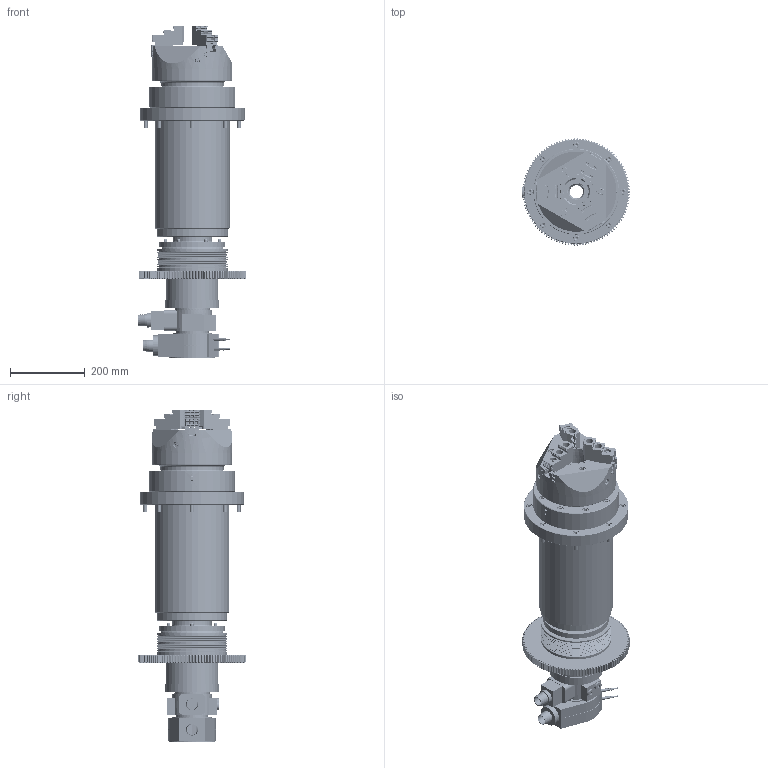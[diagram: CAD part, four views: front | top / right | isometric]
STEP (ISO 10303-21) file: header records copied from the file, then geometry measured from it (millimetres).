
FILE_DESCRIPTION(/* description */ (''),/* implementation_level */ '2;1');
FILE_NAME(/* name */ 'D:\Luboš_škola\Diplomka\FINAL\2020-01-S001.stp',/* time_stamp */ '2020-06-25T21:47:54+02:00',/* author */ ('Lubos'),/* organization */ (''),/* preprocessor_version */ 'ST-DEVELOPER v16.13',/* originating_system */ 'Autodesk Inventor 2018',/* authorisation */ '');
FILE_SCHEMA (('AUTOMOTIVE_DESIGN { 1 0 10303 214 3 1 1 }'));
Products named in the file (48): 2020-01-S001; 2020-01-S010; DP-2020-01-0001; 2020-01-0002; 7020 ACD; NN 3018 KTN9_SP; 2020-01-0003; 2020-01-0004; 2020-01-0005; 2020-01-0006; 2020-01-0007; 2020-01-0008; 2020-01-0009; 2020-01-0010; CSN 02 2562 - 22x14x70; 2020-01-S002; 2020-01-0011; KMD 14; TTR ERM 2200_733349-16; DIN 912 - M10 x 35; DIN 912 - M10 x 60; 2020-01-0016; DIN 912 - M5 x 25; ISO 7092 - ST 5 - 140 HV; DIN 912 - M10 x 45; 2020-01-S011; Čelní ozubená kola; Čelní ozubené kolo2; DIN 912 - M10 x 25; 2020-01-S002_1; ISO 4762 - M8 x 80; 2020-01-0014; 2020-01-0015; OPUS-H3 70-37_S001.ipt; OPUS-H3 70-37_0001; OPUS-H3 70-37_0002; OPUS-H3 70-37_0003; SCHUNK-1359604 OPUS-H3 70-37; OPUS-H3 70-37_0005; OPUS-H3 70-37_0006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
Assembly tree (97 placements, depth 4):
  2020-01-S001
    2020-01-S010
      DP-2020-01-0001
      2020-01-0002
      7020 ACD  x3
      NN 3018 KTN9_SP
      2020-01-0003
      2020-01-0004
      2020-01-0005
      2020-01-0006
      2020-01-0007
      2020-01-0008
      2020-01-0009
      2020-01-0010
      CSN 02 2562 - 22x14x70  x2
      2020-01-S002
        2020-01-0011
        KMD 14
        TTR ERM 2200_733349-16
      DIN 912 - M10 x 35  x8
      DIN 912 - M10 x 60  x9
      2020-01-0016
      DIN 912 - M5 x 25  x6
      ISO 7092 - ST 5 - 140 HV  x6
      DIN 912 - M10 x 45  x8
    2020-01-S011
      Čelní ozubená kola
        Čelní ozubené kolo2
      DIN 912 - M10 x 25  x8
    2020-01-S002_1
      ISO 4762 - M8 x 80  x6
      2020-01-0014
      2020-01-0015
      OPUS-H3 70-37_S001.ipt
        OPUS-H3 70-37_0001
        OPUS-H3 70-37_0002
        OPUS-H3 70-37_0003
        SCHUNK-1359604 OPUS-H3 70-37
        OPUS-H3 70-37_0005
        OPUS-H3 70-37_0006
        OPUS-H3 70-37_0007
        OPUS-H3 70-37_0008
        OPUS-H3 70-37_0009
        IME08-06  x2
        OPUS-H3 70-37_0010
    2020-01-S003
      SCHUNK-0854117 ROTA NCF plus 2 215-66 A6
      SCHUNK-0133109 SHB-J 80  x3
Bounding box: 289.25 x 287.49 x 889.7 mm (x, y, z)
Volume: 20676883.1 mm3; surface area: 2982061.1 mm2
Topology: 223 solids, 225 shells, 7234 faces, 17838 edges, 11233 vertices
Faces by surface type: plane 3255, cylinder 2043, cone 1389, torus 354, bspline 124, sphere 69
Full cylindrical faces by diameter (mm): 1.5 x3, 2 x1, 2.5 x8, 3.459 x1, 3.7 x2, 4.134 x9, 4.917 x2, 5 x10, 5.2 x6, 5.3 x6, 5.5 x4, 6.4 x2, 6.5 x4, 6.647 x6, 6.9 x2, 8 x13, 8.376 x25, 8.5 x13, 9 x18, 9.1 x4, 9.4 x3, 10 x33, 10.106 x11, 10.5 x33, 11 x54, 12 x10, 13 x15, 14 x2, 14.9 x2, 15 x6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
Entity records: 134684 total; most frequent: CARTESIAN_POINT 30945, DIRECTION 22050, ORIENTED_EDGE 19044, EDGE_CURVE 9522, AXIS2_PLACEMENT_3D 8864, VERTEX_POINT 6659, EDGE_LOOP 5705, LINE 4322
